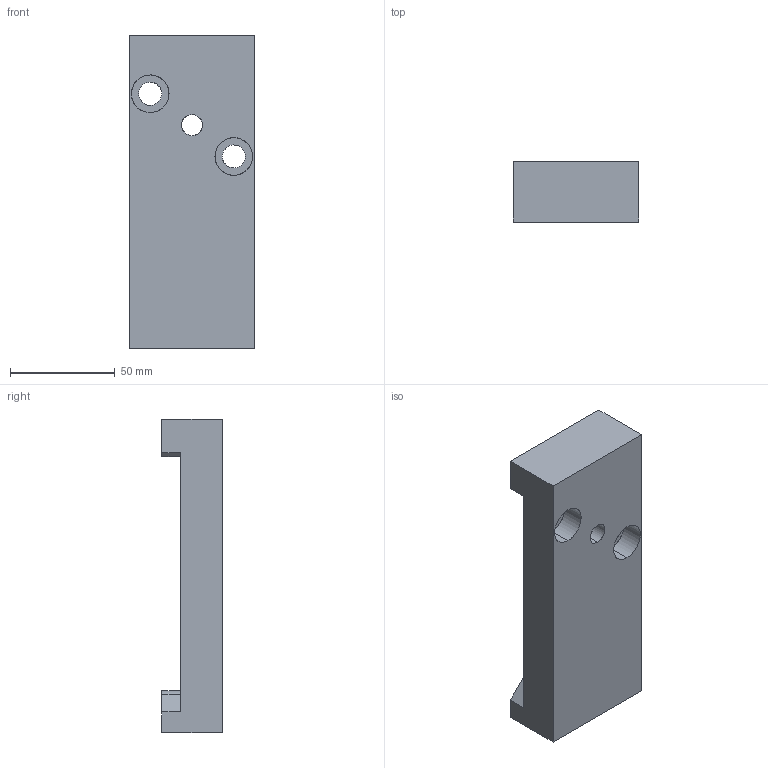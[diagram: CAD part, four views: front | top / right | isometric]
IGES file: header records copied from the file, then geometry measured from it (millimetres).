
Start section: START RECORD GO HERE.
Global section: file name: 785-060.igs; native system: DASSAULT SYSTEMES CATIA V5 R20 - www.3ds.com; preprocessor: CATIA Version 5 Release 20 ; author: Utente; organization: NB04-ASUS; date: 20201027.203838; units: millimetre
Bounding box: 60 x 29 x 150 mm (x, y, z)
Surface area: 31070.8 mm2 (no closed solid volume)
Topology: 0 solids, 0 shells, 28 faces, 144 edges, 144 vertices
Faces by surface type: plane 16, revolution 12
